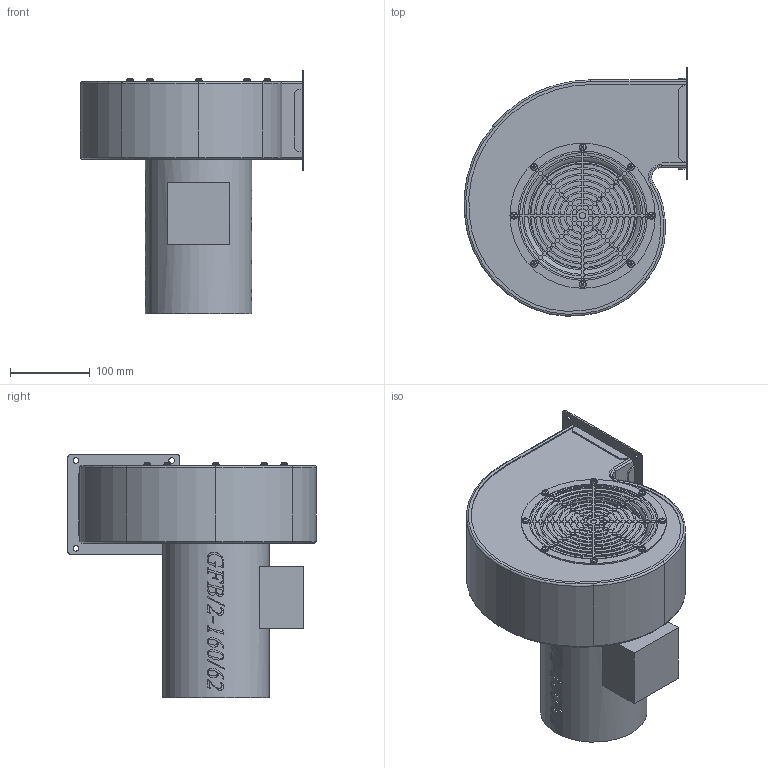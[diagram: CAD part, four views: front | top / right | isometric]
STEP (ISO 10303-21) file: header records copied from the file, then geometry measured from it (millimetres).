
FILE_DESCRIPTION(/* description */ (''),/* implementation_level */ '2;1');
FILE_NAME(/* name */ 'E:\Mariusz\Modele uproszczone\GFB\GFB_2_160_62 LG270 435030120\GFB_2_160_62 LG270 435030120\GFB_2_160_62 LG270 435030120.stp',/* time_stamp */ '2019-01-11T16:40:13+01:00',/* author */ ('M.Janczarek'),/* organization */ (''),/* preprocessor_version */ 'ST-DEVELOPER v16.13',/* originating_system */ 'Autodesk Inventor 2018',/* authorisation */ '');
FILE_SCHEMA (('AUTOMOTIVE_DESIGN { 1 0 10303 214 3 1 1 }'));
Products named in the file (1): GFB_2_160_62 LG270 435030120
Bounding box: 280.52 x 311.14 x 305.5 mm (x, y, z)
Volume: 8932879.4 mm3; surface area: 376987.1 mm2
Topology: 1 solids, 1 shells, 1462 faces, 4217 edges, 2797 vertices
Faces by surface type: cylinder 584, bspline 377, plane 364, cone 80, torus 49, sphere 8
Full cylindrical faces by diameter (mm): 7.1 x4, 8 x1, 9 x8, 130 x1, 133.6 x1, 182 x1, 183 x1
Entity records: 56307 total; most frequent: CARTESIAN_POINT 18314, ORIENTED_EDGE 8234, DIRECTION 7031, EDGE_CURVE 4117, VERTEX_POINT 2750, AXIS2_PLACEMENT_3D 2600, LINE 1831, VECTOR 1831
